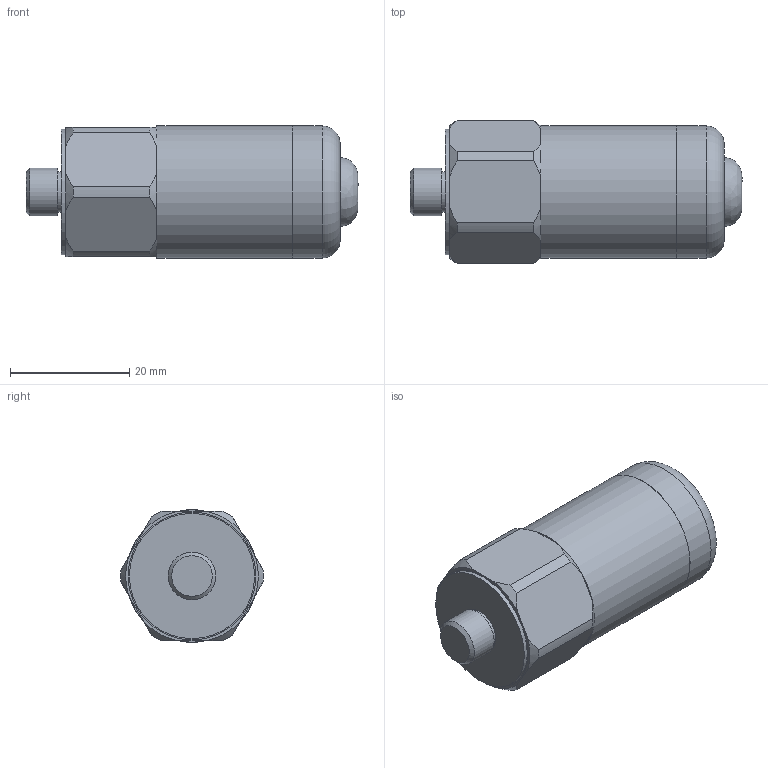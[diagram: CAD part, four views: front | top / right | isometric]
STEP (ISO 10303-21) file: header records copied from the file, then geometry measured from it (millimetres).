
FILE_DESCRIPTION(/* description */ (''),/* implementation_level */ '2;1');
FILE_NAME(/* name */ 'Z:\Engineering\Drawings\3D Library\Assemblies\Website\Premium Top\HS-150 Top Braided Cable\HS-150XXX0208.stp',/* time_stamp */ '2023-03-12T11:08:28+00:00',/* author */ ('Ricardo.Peneda'),/* organization */ (''),/* preprocessor_version */ 'ST-DEVELOPER v18.1',/* originating_system */ 'Autodesk Inventor 2021',/* authorisation */ '');
FILE_SCHEMA (('AUTOMOTIVE_DESIGN { 1 0 10303 214 3 1 1 }'));
Length unit declared in the file: inch
Products named in the file (1): HS-150XXX0208_Shrinkwrap_1
Bounding box: 55.65 x 23.99 x 22.2 mm (x, y, z)
Volume: 12378.8 mm3; surface area: 7106.5 mm2
Topology: 3 solids, 3 shells, 68 faces, 179 edges, 130 vertices
Faces by surface type: plane 31, cylinder 22, cone 13, torus 1, bspline 1
Full cylindrical faces by diameter (mm): 4.2 x1, 5 x1, 5.359 x1, 6.35 x1, 6.8 x1, 7 x1, 7.5 x1, 8 x1, 13.941 x1, 15.055 x1, 17.941 x1, 19.891 x1, 20 x1, 21 x1, 22.141 x1, 22.2 x1
Entity records: 2312 total; most frequent: CARTESIAN_POINT 451, DIRECTION 397, ORIENTED_EDGE 356, EDGE_CURVE 178, AXIS2_PLACEMENT_3D 175, VERTEX_POINT 130, CIRCLE 107, EDGE_LOOP 84
